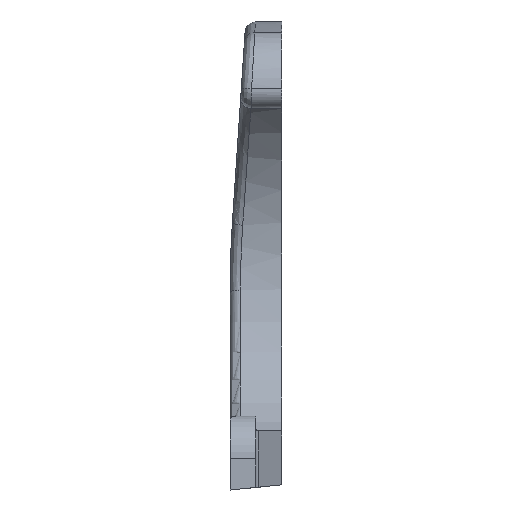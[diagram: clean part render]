
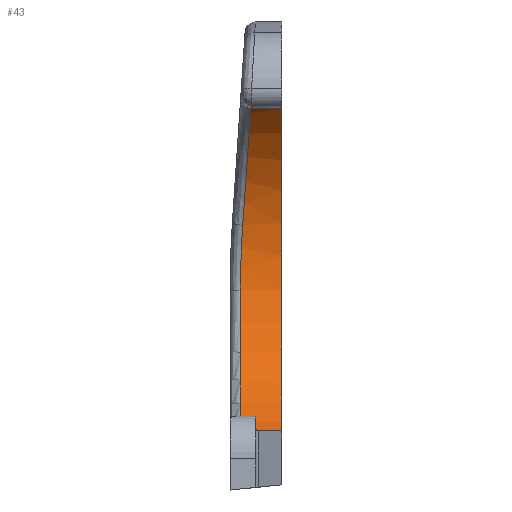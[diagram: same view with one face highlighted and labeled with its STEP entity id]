
A CAD part, left-side view. The second image highlights one B-rep face of the part: STEP entity #43.
In plain terms, the highlighted cylindrical face has radius 37 mm (diameter 74 mm), a partial arc.
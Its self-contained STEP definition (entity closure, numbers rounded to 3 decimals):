
#32 = VERTEX_POINT ( 'NONE', #973 ) ;
#33 = ORIENTED_EDGE ( 'NONE', *, *, #34, .T. ) ;
#34 = EDGE_CURVE ( 'NONE', #32, #35, #972, .T. ) ;
#35 = VERTEX_POINT ( 'NONE', #971 ) ;
#43 = ADVANCED_FACE ( 'NONE', ( #1001 ), #1000, .F. ) ;
#44 = EDGE_LOOP ( 'NONE', ( #110, #111, #113, #33, #89, #94 ) ) ;
#62 = VERTEX_POINT ( 'NONE', #1082 ) ;
#63 = VERTEX_POINT ( 'NONE', #1081 ) ;
#68 = EDGE_CURVE ( 'NONE', #62, #63, #1074, .T. ) ;
#88 = EDGE_CURVE ( 'NONE', #90, #63, #1125, .T. ) ;
#89 = ORIENTED_EDGE ( 'NONE', *, *, #93, .T. ) ;
#90 = VERTEX_POINT ( 'NONE', #1121 ) ;
#93 = EDGE_CURVE ( 'NONE', #35, #90, #1119, .T. ) ;
#94 = ORIENTED_EDGE ( 'NONE', *, *, #88, .T. ) ;
#109 = EDGE_CURVE ( 'NONE', #62, #112, #1186, .T. ) ;
#110 = ORIENTED_EDGE ( 'NONE', *, *, #68, .F. ) ;
#111 = ORIENTED_EDGE ( 'NONE', *, *, #109, .T. ) ;
#112 = VERTEX_POINT ( 'NONE', #1181 ) ;
#113 = ORIENTED_EDGE ( 'NONE', *, *, #114, .T. ) ;
#114 = EDGE_CURVE ( 'NONE', #112, #32, #1180, .T. ) ;
#970 = CARTESIAN_POINT ( 'NONE',  ( -41.105, -4.623, 37.078 ) ) ;
#971 = CARTESIAN_POINT ( 'NONE',  ( -4.584, -2.439, 6.017 ) ) ;
#972 =( BOUNDED_CURVE ( )  B_SPLINE_CURVE ( 3, ( #970, #1024, #1023, #1022 ),
 .UNSPECIFIED., .F., .F. ) 
 B_SPLINE_CURVE_WITH_KNOTS ( ( 4, 4 ),
 ( 3.142, 4.551 ),
 .UNSPECIFIED. ) 
 CURVE ( )  GEOMETRIC_REPRESENTATION_ITEM ( )  RATIONAL_B_SPLINE_CURVE ( ( 1., 0.841, 0.841, 1. ) ) 
 REPRESENTATION_ITEM ( '' )  );
#973 = CARTESIAN_POINT ( 'NONE',  ( -41.105, -4.623, 37.078 ) ) ;
#996 = DIRECTION ( 'NONE',  ( 0., 1., 0. ) ) ;
#997 = CARTESIAN_POINT ( 'NONE',  ( -41.105, -10., 0.078 ) ) ;
#998 = AXIS2_PLACEMENT_3D ( 'NONE', #997, #996, #1056 ) ;
#1000 = CYLINDRICAL_SURFACE ( 'NONE', #998, 37. ) ;
#1001 = FACE_OUTER_BOUND ( 'NONE', #44, .T. ) ;
#1022 = CARTESIAN_POINT ( 'NONE',  ( -4.584, -2.439, 6.017 ) ) ;
#1023 = CARTESIAN_POINT ( 'NONE',  ( -7.634, -3.758, 24.769 ) ) ;
#1024 = CARTESIAN_POINT ( 'NONE',  ( -22.106, -4.623, 37.078 ) ) ;
#1056 = DIRECTION ( 'NONE',  ( 0., 0., 1. ) ) ;
#1071 = DIRECTION ( 'NONE',  ( 0., 1., 0. ) ) ;
#1072 = VECTOR ( 'NONE', #1071, 1000. ) ;
#1073 = CARTESIAN_POINT ( 'NONE',  ( -41.105, -10., -36.922 ) ) ;
#1074 = LINE ( 'NONE', #1073, #1072 ) ;
#1081 = CARTESIAN_POINT ( 'NONE',  ( -41.105, -2., -36.922 ) ) ;
#1082 = CARTESIAN_POINT ( 'NONE',  ( -41.105, -10., -36.922 ) ) ;
#1112 = CARTESIAN_POINT ( 'NONE',  ( -4.124, -2.037, -2.319 ) ) ;
#1113 = CARTESIAN_POINT ( 'NONE',  ( -4.088, -2.183, 1.848 ) ) ;
#1114 = CARTESIAN_POINT ( 'NONE',  ( -4.245, -2.293, 3.932 ) ) ;
#1115 = CARTESIAN_POINT ( 'NONE',  ( -4.584, -2.439, 6.017 ) ) ;
#1119 = B_SPLINE_CURVE_WITH_KNOTS ( 'NONE', 3,
 ( #1115, #1114, #1113, #1112, #1162, #1161 ),
 .UNSPECIFIED., .F., .F.,
 ( 4, 2, 4 ),
 ( 0., 0.006, 0.013 ),
 .UNSPECIFIED. ) ;
#1121 = CARTESIAN_POINT ( 'NONE',  ( -4.692, -2., -6.486 ) ) ;
#1122 = DIRECTION ( 'NONE',  ( 0., 0., 1. ) ) ;
#1123 = DIRECTION ( 'NONE',  ( 0., 1., 0. ) ) ;
#1124 = AXIS2_PLACEMENT_3D ( 'NONE', #1131, #1123, #1122 ) ;
#1125 = CIRCLE ( 'NONE', #1124, 37. ) ;
#1131 = CARTESIAN_POINT ( 'NONE',  ( -41.105, -2., 0.078 ) ) ;
#1161 = CARTESIAN_POINT ( 'NONE',  ( -4.692, -2., -6.486 ) ) ;
#1162 = CARTESIAN_POINT ( 'NONE',  ( -4.316, -2., -4.403 ) ) ;
#1177 = DIRECTION ( 'NONE',  ( 0., 1., 0. ) ) ;
#1178 = VECTOR ( 'NONE', #1177, 1000. ) ;
#1179 = CARTESIAN_POINT ( 'NONE',  ( -41.105, -10., 37.078 ) ) ;
#1180 = LINE ( 'NONE', #1179, #1178 ) ;
#1181 = CARTESIAN_POINT ( 'NONE',  ( -41.105, -10., 37.078 ) ) ;
#1182 = DIRECTION ( 'NONE',  ( 0., 0., 1. ) ) ;
#1183 = DIRECTION ( 'NONE',  ( 0., -1., 0. ) ) ;
#1184 = CARTESIAN_POINT ( 'NONE',  ( -41.105, -10., 0.078 ) ) ;
#1185 = AXIS2_PLACEMENT_3D ( 'NONE', #1184, #1183, #1182 ) ;
#1186 = CIRCLE ( 'NONE', #1185, 37. ) ;
